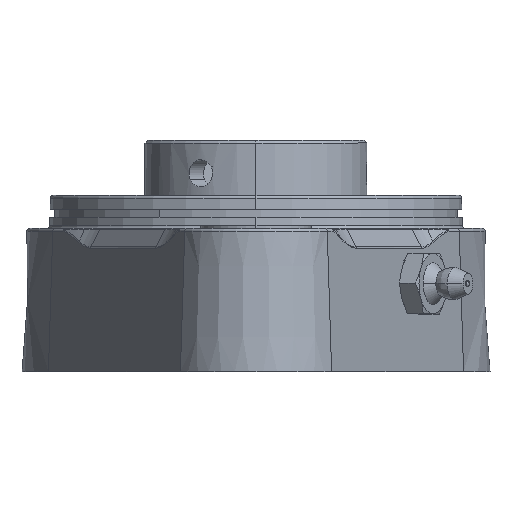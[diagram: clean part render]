
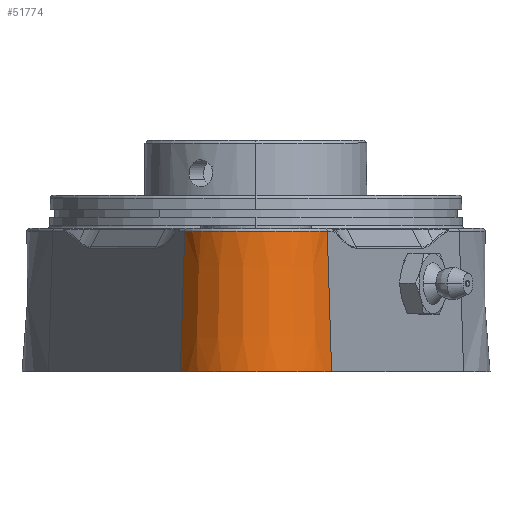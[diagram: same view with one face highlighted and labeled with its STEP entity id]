
A CAD part, left-side view. The second image highlights one B-rep face of the part: STEP entity #51774.
In plain terms, the highlighted conical face has half-angle 2 degrees and reference radius 15.5 mm.
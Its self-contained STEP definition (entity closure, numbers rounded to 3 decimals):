
#2033=CARTESIAN_POINT('Vertex',(-65.638,13.719,1.)) ;
#2036=CARTESIAN_POINT('Line Origine',(-65.436,13.332,13.5)) ;
#2040=CARTESIAN_POINT('Vertex',(-65.226,12.929,26.517)) ;
#2821=CARTESIAN_POINT('Axis2P3D Location',(-58.5,0.,26.517)) ;
#2825=CARTESIAN_POINT('Vertex',(-65.226,-12.929,26.517)) ;
#51727=CARTESIAN_POINT('Vertex',(-65.638,-13.719,1.)) ;
#51730=CARTESIAN_POINT('Axis2P3D Location',(-58.5,0.,1.)) ;
#51758=CARTESIAN_POINT('Axis2P3D Location',(-58.5,0.,0.)) ;
#51763=CARTESIAN_POINT('Line Origine',(-65.436,-13.332,13.5)) ;
#2037=DIRECTION('Vector Direction',(-0.016,0.031,-0.999)) ;
#2822=DIRECTION('Axis2P3D Direction',(0.,-0.,1.)) ;
#51731=DIRECTION('Axis2P3D Direction',(0.,0.,1.)) ;
#51759=DIRECTION('Axis2P3D Direction',(-0.,-0.,-1.)) ;
#51760=DIRECTION('Axis2P3D XDirection',(-0.462,0.887,0.)) ;
#51764=DIRECTION('Vector Direction',(-0.016,-0.031,-0.999)) ;
#2823=AXIS2_PLACEMENT_3D('Circle Axis2P3D',#2821,#2822,$) ;
#51732=AXIS2_PLACEMENT_3D('Circle Axis2P3D',#51730,#51731,$) ;
#51761=AXIS2_PLACEMENT_3D('Cone Axis2P3D',#51758,#51759,#51760) ;
#51769=ORIENTED_EDGE('',*,*,#51734,.T.) ;
#51770=ORIENTED_EDGE('',*,*,#51767,.T.) ;
#51771=ORIENTED_EDGE('',*,*,#2827,.F.) ;
#51772=ORIENTED_EDGE('',*,*,#2042,.F.) ;
#2038=VECTOR('Line Direction',#2037,1.) ;
#51765=VECTOR('Line Direction',#51764,1.) ;
#51774=ADVANCED_FACE('PartBody',(#51773),#51762,.T.) ;
#2824=CIRCLE('generated circle',#2823,14.574) ;
#51733=CIRCLE('generated circle',#51732,15.465) ;
#51762=CONICAL_SURFACE('Cone',#51761,15.5,0.035) ;
#2042=EDGE_CURVE('',#2034,#2041,#2039,.F.) ;
#2827=EDGE_CURVE('',#2041,#2826,#2824,.T.) ;
#51734=EDGE_CURVE('',#2034,#51728,#51733,.T.) ;
#51767=EDGE_CURVE('',#51728,#2826,#51766,.F.) ;
#51768=EDGE_LOOP('',(#51769,#51770,#51771,#51772)) ;
#51773=FACE_OUTER_BOUND('',#51768,.T.) ;
#2039=LINE('Line',#2036,#2038) ;
#51766=LINE('Line',#51763,#51765) ;
#2034=VERTEX_POINT('',#2033) ;
#2041=VERTEX_POINT('',#2040) ;
#2826=VERTEX_POINT('',#2825) ;
#51728=VERTEX_POINT('',#51727) ;
